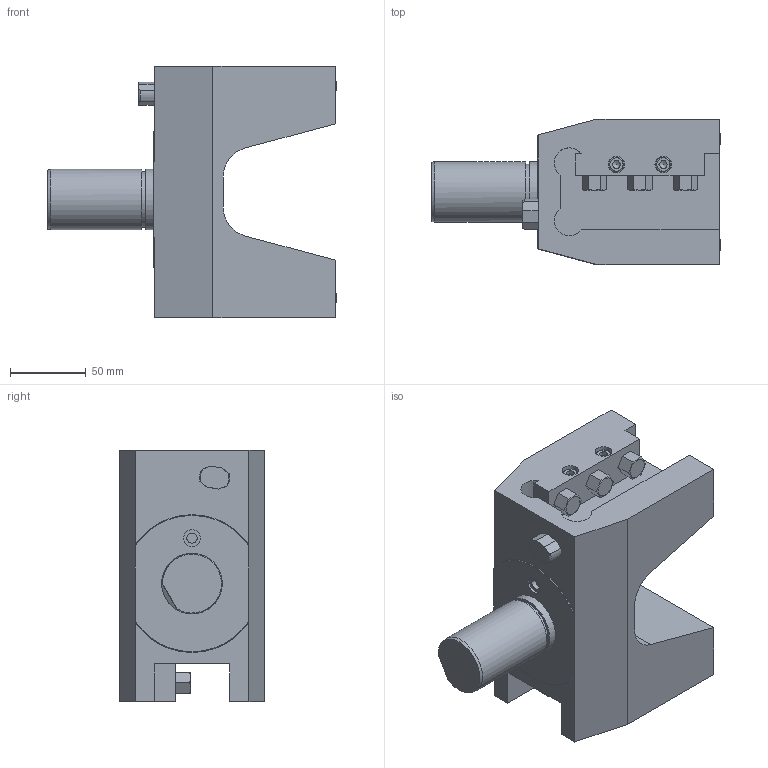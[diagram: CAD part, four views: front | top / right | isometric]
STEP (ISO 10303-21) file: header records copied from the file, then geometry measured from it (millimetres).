
FILE_DESCRIPTION(/* description */ (''),/* implementation_level */ '2;1');
FILE_NAME(/* name */ '104079',/* time_stamp */ '2020-10-21T14:09:55+02:00',/* author */ (''),/* organization */ (''),/* preprocessor_version */ 'ST-DEVELOPER v16.5',/* originating_system */ 'HiCAD 2017 2201.0 Build 268',/* authorisation */ '');
FILE_SCHEMA (('AUTOMOTIVE_DESIGN { 1 0 10303 214 1 1 1 1 }'));
Length unit declared in the file: millimetre
Products named in the file (2): Root; Teil
Assembly tree (1 placements, depth 2):
  Root
    Teil
Bounding box: 190.66 x 96 x 166 mm (x, y, z)
Volume: 1217310.8 mm3; surface area: 118479.9 mm2
Topology: 1 solids, 6 shells, 233 faces, 568 edges, 373 vertices
Faces by surface type: plane 177, cylinder 31, cone 16, torus 5, sphere 4
Full cylindrical faces by diameter (mm): 6.6 x4, 6.8 x1, 10 x4, 11 x4, 11.1 x1, 12 x1, 36.5 x1, 40 x2
Entity records: 11783 total; most frequent: CARTESIAN_POINT 1222, DIRECTION 1152, PRESENTATION_STYLE_ASSIGNMENT 1033, COLOUR_RGB 1033, DRAUGHTING_PRE_DEFINED_CURVE_FONT 1032, CURVE_STYLE 1032, OVER_RIDING_STYLED_ITEM 1032, ORIENTED_EDGE 1032
